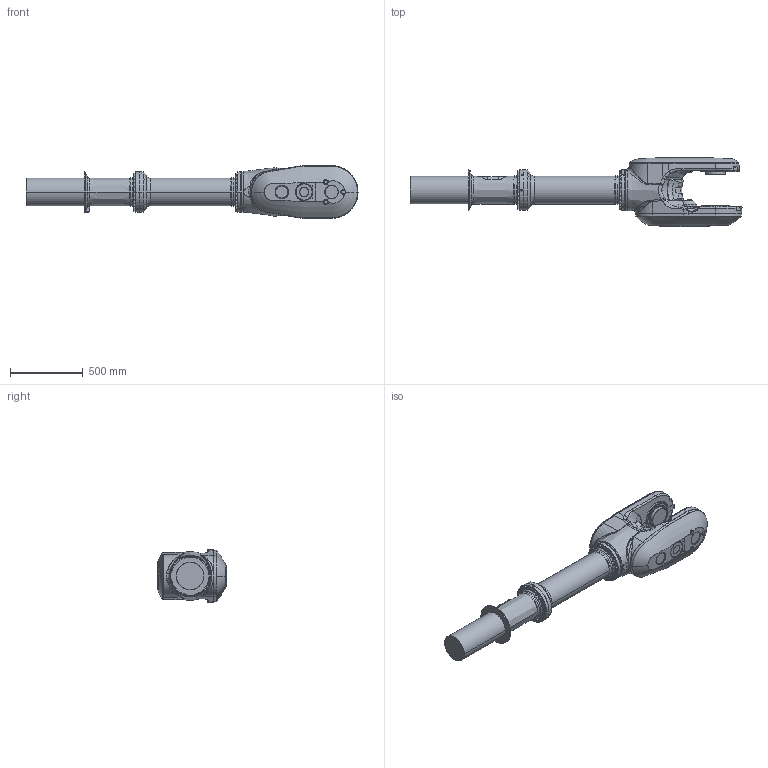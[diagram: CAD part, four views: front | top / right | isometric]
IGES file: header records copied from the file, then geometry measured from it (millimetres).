
Start section: SolidWorks IGES file using analytic representation for surfaces
Global section: file name: B:\DM\Robotics\SEROP_PROJ\Product Development\DevelopmentProjects\Manipulator_Modularity\04. Product Design\06. CAD\Amanda\7710 Lightweight models\IRB7710_310kg-350_OC_00_SW_J\IRB77X0_All-350_OC_00_LINK04_CAD.IGS; native system: SolidWorks 2022; preprocessor: SolidWorks 2022; author: SEAMSTO1; date: 240118.112911; units: millimetre
Bounding box: 2286.38 x 475.5 x 362.32 mm (x, y, z)
Surface area: 2431537.8 mm2 (no closed solid volume)
Topology: 0 solids, 0 shells, 884 faces, 15752 edges, 15729 vertices
Faces by surface type: bspline 451, revolution 433
